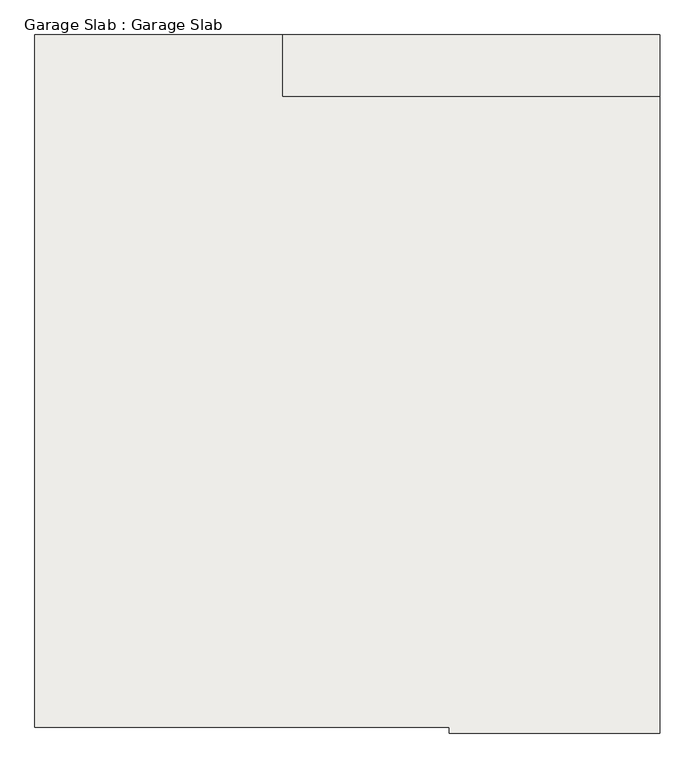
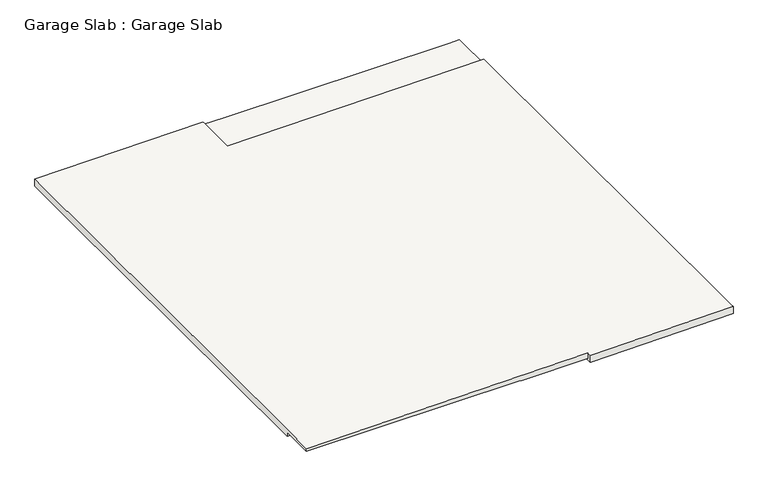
"""IFC4 building model written with IfcOpenShell, lengths in millimetres: slab geometry, Garage Slab : Garage Slab."""

from ifc_helpers import new_model, si_unit, origin, place, context, project, spatial, faceted_brep, source, transform, mapped, element, save


def garage_slab_garage_slab_8a387a14(model_context):
    return source(origin(), model_context, "Body", "Brep", [
        faceted_brep([(-9456.0678637, 11441.3883247, -348.4930854), (-9608.4678637, 11441.3883247, -350.017921), (-12656.4678637, 11441.3883247, -380.5146315), (-15247.2678637, 11441.3883247, -406.4368354), (-15247.2678637, 11441.3883247, -304.83175), (-12954.1241137, 11441.3883247, -281.8877404), (-12954.1241137, 11441.3883247, -318.0567253), (-12656.4678637, 11441.3883247, -318.0567253), (-9608.4678637, 11441.3883247, -318.0567253), (-9456.0678637, 11441.3883247, -318.0567253), (-9456.0678637, 4969.0442801, -348.4930854), (-9456.0678637, 4969.0442801, -246.888), (-11405.5178637, 4969.0442801, -266.3931878), (-11405.5178637, 4969.0442801, -367.9982732), (-15247.2678637, 11425.7349287, -304.83175), (-15247.2678637, 5482.1349287, -304.83175), (-15247.2678637, 5024.9349287, -304.83175), (-11405.5178637, 5024.9349287, -266.3931878), (-9456.0678637, 5024.9349287, -246.888), (-9456.0678637, 10868.1942801, -246.888), (-12954.1241137, 10868.1942801, -281.8877404), (-12954.1241137, 11425.7349287, -281.8877404), (-9456.0678637, 11369.8442801, -318.0567253), (-9456.0678637, 10868.1942801, -318.0567253), (-11405.5178637, 5177.3349287, -367.9982732), (-14942.4678637, 5177.3349287, -403.3871644), (-15094.8678637, 5177.3349287, -404.9119999), (-15094.8678637, 5482.1349287, -404.9119999), (-15247.2678637, 5482.1349287, -406.4368354), (-15247.2678637, 10663.7349287, -406.4368354), (-15247.2678637, 5482.1349287, -342.9), (-15247.2678637, 5024.9349287, -342.9), (-12954.1241137, 10868.1942801, -318.0567253), (-12954.1241137, 11369.8442801, -318.0567253), (-12319.9178637, 5024.9349287, -342.9), (-12319.9178637, 5177.3349287, -342.9), (-12319.9178637, 5177.3349287, -346.9472754), (-12319.9178637, 5024.9349287, -346.9472754), (-15094.8678637, 5177.3349287, -342.9), (-11405.5178637, 5177.3349287, -346.9472754), (-15094.8678637, 5482.1349287, -342.9), (-11405.5178637, 5024.9349287, -346.9472754)], [[[0, 1, 2, 3, 4, 5, 6, 7, 8, 9]], [[10, 11, 12, 13]], [[5, 4, 14, 15, 16, 17, 12, 11, 18, 19, 20, 21]], [[11, 10, 0, 9, 22, 23, 19, 18]], [[3, 2, 1, 0, 10, 13, 24, 25, 26, 27, 28, 29]], [[4, 3, 29, 28, 30, 31, 16, 15, 14]], [[23, 32, 20, 19]], [[32, 23, 22, 9, 8, 7, 6, 33]], [[20, 32, 33, 6, 5, 21]], [[34, 35, 36, 37]], [[35, 38, 26, 25, 24, 39, 36]], [[35, 34, 31, 30, 40, 38]], [[31, 34, 37, 41, 17, 16]], [[40, 30, 28, 27]], [[38, 40, 27, 26]], [[41, 39, 24, 13, 12, 17]], [[39, 41, 37, 36]]]),
    ])


if __name__ == "__main__":
    model = new_model("IFC4")
    model_context = context("Model", 3, world=origin())
    ifc_project = project(units=[si_unit("LENGTHUNIT", "METRE", prefix="MILLI")], contexts=[model_context])
    site = spatial("IfcSite", under=ifc_project)
    building = spatial("IfcBuilding", under=site)
    placement = place(None, origin())
    garage_slab_garage_slab_shape = garage_slab_garage_slab_8a387a14(model_context)
    element("IfcSlab", 1, ObjectType="Garage Slab : Garage Slab", at=placement, inside=building, context=model_context, shape_type="MappedRepresentation", body=[
        mapped(garage_slab_garage_slab_shape, transform((0.0, 0.0, 0.0), x_axis=(1.0, 0.0, 0.0), y_axis=(0.0, 1.0, 0.0), z_axis=(0.0, 0.0, 1.0))),
    ])
    save(model, "model.ifc")
